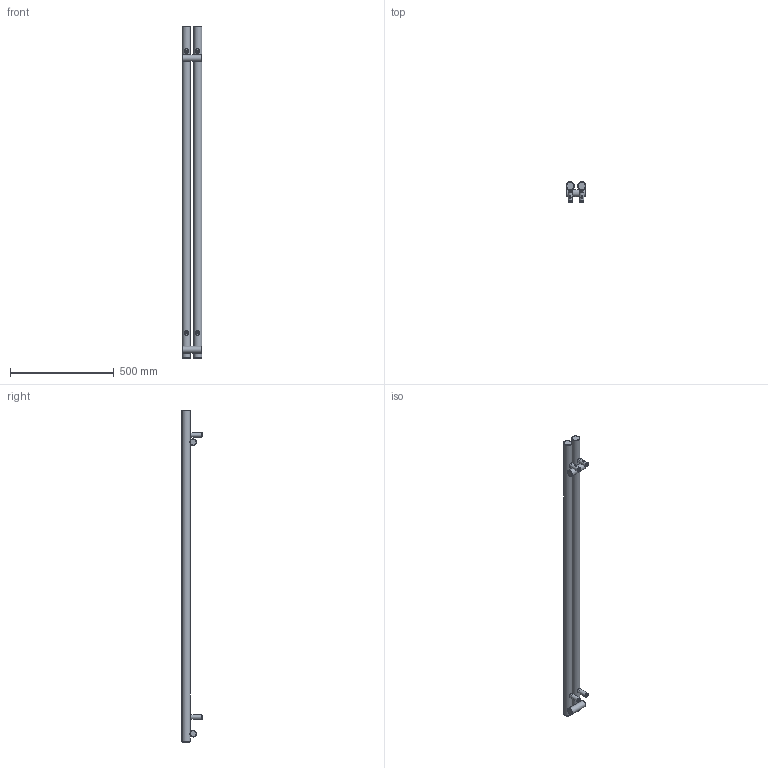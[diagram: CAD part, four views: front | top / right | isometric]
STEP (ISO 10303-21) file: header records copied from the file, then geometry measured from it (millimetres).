
FILE_DESCRIPTION(/* description */ (''),/* implementation_level */ '2;1');
FILE_NAME(/* name */ 'Z:\R\G\P\RGP116 - Grzejniki Geyser\Work\Inventor\Circolo (Rolo V, Rolo H)\ROLO-ROOM\Marketing\Bryły 3D\Zaokrąglone\WLROR160009-ES-CK-(Z).stp',/* time_stamp */ '2024-03-29T16:00:15+01:00',/* author */ ('NowAd'),/* organization */ (''),/* preprocessor_version */ 'ST-DEVELOPER v17.2',/* originating_system */ 'Autodesk Inventor 2019',/* authorisation */ '');
FILE_SCHEMA (('AUTOMOTIVE_DESIGN { 1 0 10303 214 3 1 1 }'));
Length unit declared in the file: millimetre
Products named in the file (3): WLROR160009-ES-CK-(Z); PGROR160009-ES-CK-(K); CK-V-fi40 marketing
Assembly tree (5 placements, depth 2):
  WLROR160009-ES-CK-(Z)
    PGROR160009-ES-CK-(K)
    CK-V-fi40 marketing  x4
Bounding box: 95 x 96.5 x 1600 mm (x, y, z)
Volume: 4217037.5 mm3; surface area: 459635.2 mm2
Topology: 5 solids, 5 shells, 296 faces, 754 edges, 504 vertices
Faces by surface type: plane 126, cylinder 70, cone 60, torus 36, bspline 4
Full cylindrical faces by diameter (mm): 4.134 x4, 4.48 x4, 6.4 x4, 10 x4, 12 x4, 15.834 x4, 16 x4, 18.631 x2, 22 x4, 32 x2, 40 x2
Entity records: 4739 total; most frequent: CARTESIAN_POINT 1962, DIRECTION 583, ORIENTED_EDGE 546, EDGE_CURVE 273, AXIS2_PLACEMENT_3D 256, VERTEX_POINT 186, EDGE_LOOP 139, CIRCLE 131
